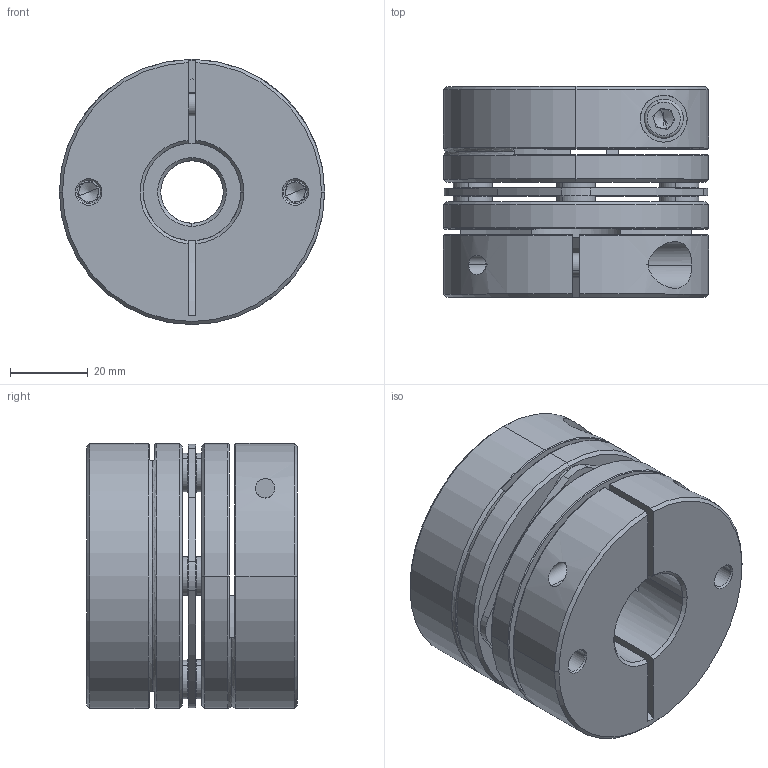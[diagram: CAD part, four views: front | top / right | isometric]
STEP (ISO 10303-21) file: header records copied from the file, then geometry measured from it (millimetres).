
FILE_DESCRIPTION (( 'STEP AP203' ), '1' );
FILE_NAME ('LD1-D68-16-25.STEP', '2021-10-26T07:49:43', ( '' ), ( '' ), 'SwSTEP 2.0', 'SolidWorks 2018', '' );
FILE_SCHEMA (( 'CONFIG_CONTROL_DESIGN' ));
Length unit declared in the file: millimetre
Products named in the file (2): LD1-D68-16-25; 錨璃101^LD1-D68
Assembly tree (1 placements, depth 2):
  LD1-D68-16-25
    錨璃101^LD1-D68
Bounding box: 68 x 54 x 68 mm (x, y, z)
Volume: 149550.9 mm3; surface area: 46710.2 mm2
Topology: 1 solids, 15 shells, 443 faces, 1063 edges, 652 vertices
Faces by surface type: cylinder 161, plane 138, cone 122, torus 22
Entity records: 13477 total; most frequent: CARTESIAN_POINT 2615, DIRECTION 2435, ORIENTED_EDGE 2094, EDGE_CURVE 1047, AXIS2_PLACEMENT_3D 988, VERTEX_POINT 652, CIRCLE 541, EDGE_LOOP 523
